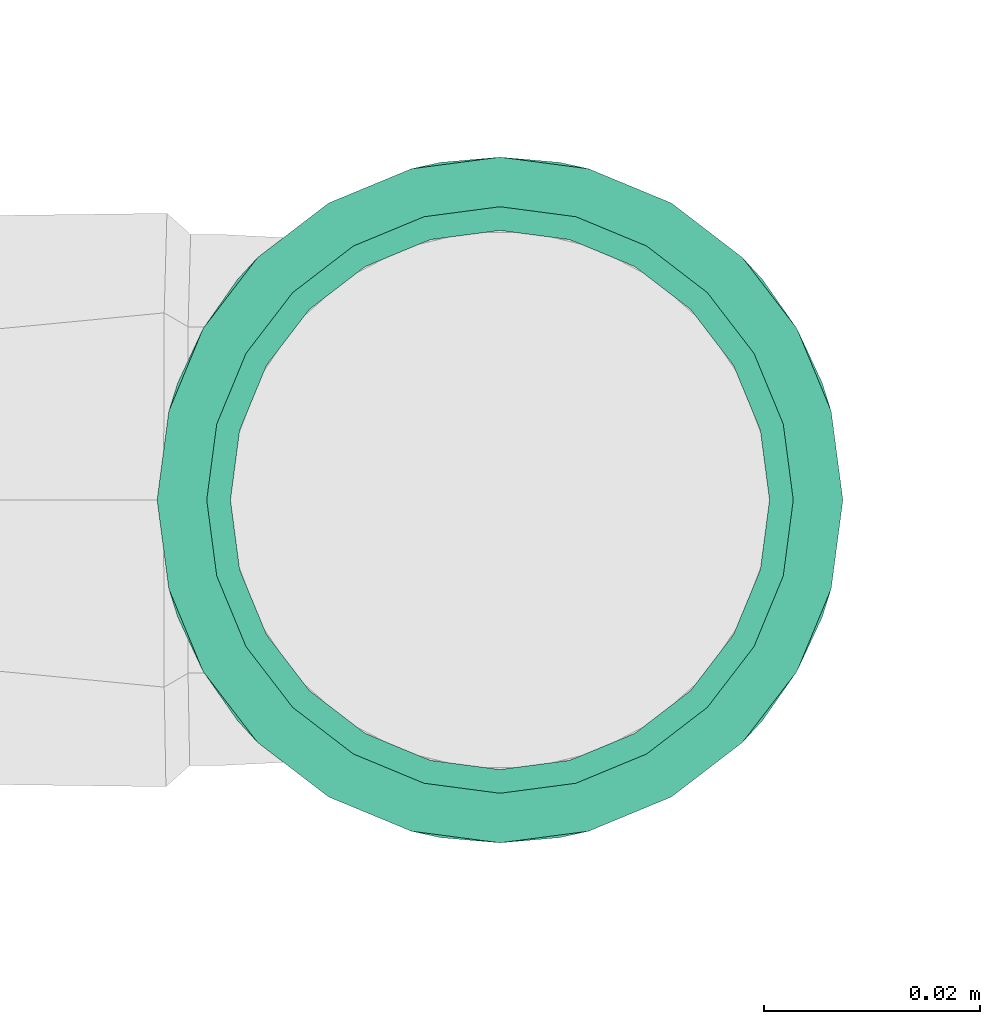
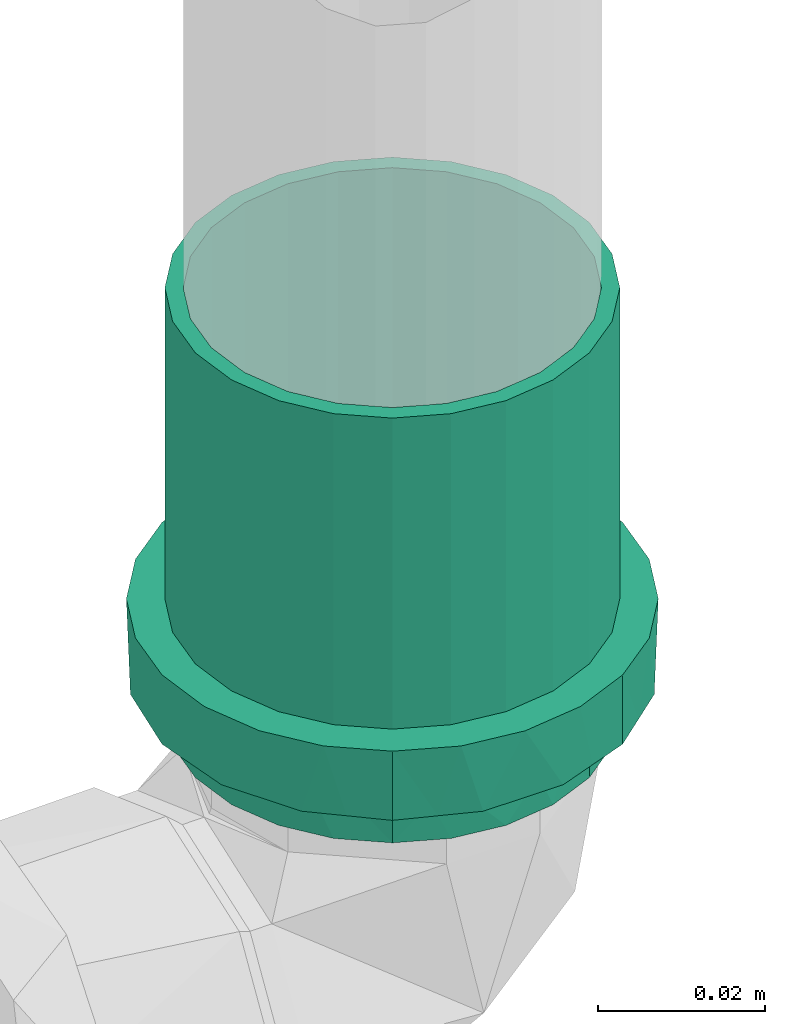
# One storey, part 161 of 589: 1 flow fitting.
"""IFC2X3 building model written with IfcOpenShell, lengths in millimetres."""

from ifc_helpers import new_model, entity, si_unit, converted_unit, derived_unit, direction, frame, origin, place, context, subcontext, project, spatial, faceted_brep, source, transform, mapped, material, type_object, type_shapes, element, save


model = new_model("IFC2X3")

# Units and contexts
model_context = context("Model", 3, precision=0.01, world=origin(), true_north=direction((6.123031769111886e-17, 1.0)))
body_context = subcontext(model_context, "Body", "Model", "MODEL_VIEW")
ifc_project = project(units=[si_unit("LENGTHUNIT", "METRE", prefix="MILLI"), si_unit("AREAUNIT", "SQUARE_METRE"), si_unit("VOLUMEUNIT", "CUBIC_METRE"), converted_unit("PLANEANGLEUNIT", "DEGREE", entity("IfcRatioMeasure", 0.017453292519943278), si_unit("PLANEANGLEUNIT", "RADIAN"), dimensions=[0, 0, 0, 0, 0, 0, 0]), si_unit("MASSUNIT", "GRAM", prefix="KILO"), derived_unit("MASSDENSITYUNIT", [(si_unit("MASSUNIT", "GRAM", prefix="KILO"), 1), (si_unit("LENGTHUNIT", "METRE"), -3)]), derived_unit("IONCONCENTRATIONUNIT", [(si_unit("MASSUNIT", "GRAM", prefix="KILO"), 1), (si_unit("LENGTHUNIT", "METRE"), -3)]), derived_unit("MOMENTOFINERTIAUNIT", [(si_unit("LENGTHUNIT", "METRE"), 4)]), si_unit("TIMEUNIT", "SECOND"), si_unit("FREQUENCYUNIT", "HERTZ"), si_unit("THERMODYNAMICTEMPERATUREUNIT", "DEGREE_CELSIUS"), derived_unit("THERMALTRANSMITTANCEUNIT", [(si_unit("MASSUNIT", "GRAM", prefix="KILO"), 1), (si_unit("THERMODYNAMICTEMPERATUREUNIT", "KELVIN"), -1), (si_unit("TIMEUNIT", "SECOND"), -3)]), derived_unit("THERMALCONDUCTANCEUNIT", [(si_unit("MASSUNIT", "GRAM", prefix="KILO"), 1), (si_unit("THERMODYNAMICTEMPERATUREUNIT", "KELVIN"), -1), (si_unit("TIMEUNIT", "SECOND"), -3), (si_unit("LENGTHUNIT", "METRE"), 1)]), derived_unit("VOLUMETRICFLOWRATEUNIT", [(si_unit("LENGTHUNIT", "METRE"), 3), (si_unit("TIMEUNIT", "SECOND"), -1)]), derived_unit("MASSFLOWRATEUNIT", [(si_unit("MASSUNIT", "GRAM", prefix="KILO"), 1), (si_unit("TIMEUNIT", "SECOND"), -1)]), derived_unit("ROTATIONALFREQUENCYUNIT", [(si_unit("TIMEUNIT", "SECOND"), -1)]), si_unit("ELECTRICCURRENTUNIT", "AMPERE"), si_unit("ELECTRICVOLTAGEUNIT", "VOLT"), si_unit("POWERUNIT", "WATT"), si_unit("FORCEUNIT", "NEWTON", prefix="KILO"), si_unit("ILLUMINANCEUNIT", "LUX"), si_unit("LUMINOUSFLUXUNIT", "LUMEN"), si_unit("LUMINOUSINTENSITYUNIT", "CANDELA"), derived_unit("USERDEFINED", [(si_unit("MASSUNIT", "GRAM", prefix="KILO"), -1), (si_unit("LENGTHUNIT", "METRE"), -2), (si_unit("TIMEUNIT", "SECOND"), 3), (si_unit("LUMINOUSFLUXUNIT", "LUMEN"), 1)]), derived_unit("USERDEFINED", [(si_unit("MASSUNIT", "GRAM", prefix="KILO"), 1), (si_unit("TIMEUNIT", "SECOND"), -3), (si_unit("LENGTHUNIT", "METRE"), 3), (si_unit("ELECTRICCURRENTUNIT", "AMPERE"), -2)]), derived_unit("SOUNDPOWERUNIT", [(si_unit("MASSUNIT", "GRAM", prefix="KILO"), 1), (si_unit("TIMEUNIT", "SECOND"), -3), (si_unit("LENGTHUNIT", "METRE"), 2)]), derived_unit("SOUNDPRESSUREUNIT", [(si_unit("MASSUNIT", "GRAM", prefix="KILO"), 1), (si_unit("LENGTHUNIT", "METRE"), -1), (si_unit("TIMEUNIT", "SECOND"), -2)]), derived_unit("LINEARVELOCITYUNIT", [(si_unit("LENGTHUNIT", "METRE"), 1), (si_unit("TIMEUNIT", "SECOND"), -1)]), si_unit("PRESSUREUNIT", "PASCAL"), derived_unit("USERDEFINED", [(si_unit("MASSUNIT", "GRAM", prefix="KILO"), 1), (si_unit("LENGTHUNIT", "METRE"), -2), (si_unit("TIMEUNIT", "SECOND"), -2)]), derived_unit("LINEARFORCEUNIT", [(si_unit("MASSUNIT", "GRAM", prefix="KILO"), 1), (si_unit("TIMEUNIT", "SECOND"), -2)]), derived_unit("PLANARFORCEUNIT", [(si_unit("MASSUNIT", "GRAM", prefix="KILO"), 1), (si_unit("LENGTHUNIT", "METRE"), -1), (si_unit("TIMEUNIT", "SECOND"), -2)]), derived_unit("SPECIFICHEATCAPACITYUNIT", [(si_unit("THERMODYNAMICTEMPERATUREUNIT", "KELVIN"), -1), (si_unit("LENGTHUNIT", "METRE"), 2), (si_unit("TIMEUNIT", "SECOND"), -2)]), derived_unit("HEATINGVALUEUNIT", [(si_unit("LENGTHUNIT", "METRE"), 2), (si_unit("TIMEUNIT", "SECOND"), -2)]), derived_unit("VAPORPERMEABILITYUNIT", [(si_unit("LENGTHUNIT", "METRE"), -1), (si_unit("TIMEUNIT", "SECOND"), 1)]), derived_unit("DYNAMICVISCOSITYUNIT", [(si_unit("MASSUNIT", "GRAM", prefix="KILO"), 1), (si_unit("TIMEUNIT", "SECOND"), -1), (si_unit("LENGTHUNIT", "METRE"), -1)]), derived_unit("THERMALEXPANSIONCOEFFICIENTUNIT", [(si_unit("THERMODYNAMICTEMPERATUREUNIT", "KELVIN"), -1)]), derived_unit("MODULUSOFELASTICITYUNIT", [(si_unit("MASSUNIT", "GRAM", prefix="KILO"), 1), (si_unit("LENGTHUNIT", "METRE"), -1), (si_unit("TIMEUNIT", "SECOND"), -2)]), derived_unit("ISOTHERMALMOISTURECAPACITYUNIT", [(si_unit("LENGTHUNIT", "METRE"), 3), (si_unit("MASSUNIT", "GRAM", prefix="KILO"), -1)]), derived_unit("MOISTUREDIFFUSIVITYUNIT", [(si_unit("TIMEUNIT", "SECOND"), -1), (si_unit("LENGTHUNIT", "METRE"), 2)])], contexts=[model_context])

# Site, building, storey
site_placement = place(None, origin())
site = spatial("IfcSite", under=ifc_project, at=site_placement, Name="Default", CompositionType="ELEMENT")
building_placement = place(site_placement, origin())
building = spatial("IfcBuilding", under=site, at=building_placement, CompositionType="ELEMENT")
storey_placement = place(building_placement, frame((0.0, 0.0, 100.0)))
storey = spatial("IfcBuildingStorey", under=building, at=storey_placement, Name="TÉRREO", CompositionType="ELEMENT", Elevation=100.0)

# Flow fitting
ifc_material = material(Name="PVC Série Normal")
pipe_fitting_type = type_object("IfcPipeFittingType", Name="PVC Esgoto_Luva Simples para Conexão_Rodrigo MEP:Standard", PredefinedType="NOTDEFINED", material=ifc_material)
shared_shape = source(origin(), body_context, "Body", "Brep", [
    faceted_brep([(16.599999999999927, 15.900000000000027, -27.53960784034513), (16.599999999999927, 22.485995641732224, -22.485995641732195), (16.599999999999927, 13.599999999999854, -23.555890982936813), (16.599999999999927, 7.039878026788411, -26.273182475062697), (16.599999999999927, 8.2304456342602, -30.71644127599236), (16.599999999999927, 19.233304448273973, -19.233304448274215), (16.599999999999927, 27.539607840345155, -15.899999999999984), (16.599999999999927, 23.55589098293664, -13.600000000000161), (16.599999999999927, 26.273182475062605, -7.03987802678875), (16.599999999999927, 30.716441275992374, -8.230445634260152), (16.599999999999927, 27.2, 0.0), (16.599999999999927, 31.8, 0.0), (16.599999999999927, 26.273182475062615, 7.0398780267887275), (16.599999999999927, 30.71644127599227, 8.23044563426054), (16.599999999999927, 23.555890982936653, 13.60000000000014), (16.599999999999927, 27.539607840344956, 15.900000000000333), (16.599999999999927, 19.233304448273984, 19.2333044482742), (16.599999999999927, 22.485995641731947, 22.48599564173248), (16.599999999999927, 13.599999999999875, 23.555890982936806), (16.599999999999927, 15.899999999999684, 27.53960784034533), (16.599999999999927, 7.039878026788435, 26.27318247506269), (16.599999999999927, 8.230445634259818, 30.716441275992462), (16.599999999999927, 0.0, 27.2), (16.599999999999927, 0.0, 31.8), (16.599999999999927, -7.039878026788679, 26.273182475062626), (16.599999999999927, -8.230445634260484, 30.716441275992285), (16.599999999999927, -13.600000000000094, 23.555890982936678), (16.599999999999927, -15.900000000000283, 27.53960784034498), (16.599999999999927, -19.23330444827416, 19.233304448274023), (16.599999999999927, -22.485995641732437, 22.48599564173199), (16.599999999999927, -23.55589098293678, 13.59999999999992), (16.599999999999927, -27.539607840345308, 15.899999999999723), (16.599999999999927, -30.71644127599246, 8.230445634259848), (16.599999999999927, -26.273182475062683, 7.039878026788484), (16.599999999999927, -31.8, 0.0), (16.599999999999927, -27.2, 0.0), (16.599999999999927, -30.71644127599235, -8.23044563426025), (16.599999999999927, -26.273182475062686, -7.03987802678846), (16.599999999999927, -27.53960784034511, -15.90000000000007), (16.599999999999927, -23.55589098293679, -13.599999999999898), (16.599999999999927, -22.485995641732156, -22.485995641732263), (16.599999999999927, -19.233304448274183, -19.233304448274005), (16.599999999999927, -15.899999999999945, -27.53960784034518), (16.599999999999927, -13.600000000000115, -23.555890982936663), (16.599999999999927, -8.230445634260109, -30.716441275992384), (16.599999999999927, -7.039878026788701, -26.273182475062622), (16.599999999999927, 0.0, -31.8), (16.599999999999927, 0.0, -27.2), (6.500000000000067, -10.708108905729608, 29.429219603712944), (6.500000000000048, -24.359073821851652, 20.44200387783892), (6.500000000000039, -27.120498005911, 15.6595386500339), (6.50000000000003, -29.881922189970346, 10.877073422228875), (6.500000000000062, -15.89769721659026, 27.540937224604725), (6.500000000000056, -20.128385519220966, 23.991470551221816), (6.50000000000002, -30.840961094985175, 5.438536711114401), (6.5000000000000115, -31.8, 0.0), (6.50000000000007, -5.518520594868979, 31.317501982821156), (6.500000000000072, 5.526376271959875, 31.316116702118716), (6.50000000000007, 0.00392783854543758, 31.316809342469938), (6.500000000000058, 20.134403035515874, 23.986420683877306), (6.500000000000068, 10.715490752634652, 29.42653259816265), (6.500000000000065, 15.904605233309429, 27.536948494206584), (6.500000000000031, 29.8846497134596, 10.869577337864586), (6.500000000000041, 27.12442527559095, 15.652735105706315), (6.5000000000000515, 24.364200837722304, 20.435892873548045), (6.5000000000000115, 31.8, 0.0), (6.499999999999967, 24.364200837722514, -20.435892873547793), (6.499999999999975, 27.12442527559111, -15.652735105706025), (6.499999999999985, 29.884649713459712, -10.869577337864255), (6.4999999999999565, 15.904605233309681, -27.53694849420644), (6.499999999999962, 20.134403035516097, -23.986420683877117), (6.499999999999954, 10.715490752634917, -29.42653259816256), (6.499999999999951, 5.526376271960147, -31.31611670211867), (6.499999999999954, -5.518520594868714, -31.317501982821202), (6.499999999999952, 0.003927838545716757, -31.316809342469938), (6.499999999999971, -20.128385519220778, -23.99147055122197), (6.499999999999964, -15.897697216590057, -27.54093722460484), (6.499999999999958, -10.70810890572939, -29.42921960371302), (6.499999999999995, -29.881922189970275, -10.877073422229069), (6.499999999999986, -27.12049800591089, -15.659538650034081), (6.499999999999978, -24.359073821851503, -20.442003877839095), (6.500000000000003, -30.840961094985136, -5.438536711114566), (6.499999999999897, -30.696173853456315, -6.259599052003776), (62.0, 13.600000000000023, -23.55589098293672), (62.0, 19.233304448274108, -19.23330444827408), (62.0, 12.499999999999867, -21.650635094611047), (62.0, 6.470476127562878, -24.14814565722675), (62.0, 7.039878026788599, -26.273182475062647), (62.0, 17.677669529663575, -17.677669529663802), (62.0, 23.55589098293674, -13.599999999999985), (62.0, 21.65063509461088, -12.50000000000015), (62.0, 24.148145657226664, -6.470476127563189), (62.0, 26.27318247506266, -7.039878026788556), (62.0, 25.0, 0.0), (62.0, 27.2, 0.0), (62.0, 24.148145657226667, 6.4704761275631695), (62.0, 26.273182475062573, 7.03987802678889), (62.0, 21.650635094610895, 12.500000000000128), (62.0, 23.555890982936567, 13.600000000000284), (62.0, 17.67766952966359, 17.67766952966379), (62.0, 19.233304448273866, 19.233304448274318), (62.0, 12.499999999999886, 21.650635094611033), (62.0, 13.59999999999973, 23.55589098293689), (62.0, 6.4704761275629, 24.14814565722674), (62.0, 7.039878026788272, 26.273182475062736), (62.0, 0.0, 25.0), (62.0, 0.0, 27.2), (62.0, -6.470476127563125, 24.148145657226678), (62.0, -7.039878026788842, 26.273182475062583), (62.0, -12.500000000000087, 21.650635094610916), (62.0, -13.600000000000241, 23.555890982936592), (62.0, -17.677669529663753, 17.677669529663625), (62.0, -19.233304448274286, 19.2333044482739), (62.0, -21.65063509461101, 12.499999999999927), (62.0, -23.555890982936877, 13.599999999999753), (62.0, -26.27318247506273, 7.039878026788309), (62.0, -24.14814565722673, 6.470476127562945), (62.0, -27.2, 0.0), (62.0, -25.0, 0.0), (62.0, -26.27318247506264, -7.0398780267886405), (62.0, -24.148145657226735, -6.470476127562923), (62.0, -23.5558909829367, -13.600000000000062), (62.0, -21.650635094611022, -12.499999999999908), (62.0, -19.233304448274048, -19.233304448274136), (62.0, -17.67766952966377, -17.677669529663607), (62.0, -13.599999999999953, -23.555890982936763), (62.0, -12.500000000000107, -21.650635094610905), (62.0, -7.039878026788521, -26.27318247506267), (62.0, -6.470476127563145, -24.148145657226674), (62.0, 0.0, -27.2), (62.0, 0.0, -25.0), (0.0, 12.499999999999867, -21.650635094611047), (0.0, 19.233304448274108, -19.23330444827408), (0.0, 13.600000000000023, -23.55589098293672), (0.0, 6.470476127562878, -24.14814565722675), (0.0, 17.677669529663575, -17.677669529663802), (0.0, 23.55589098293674, -13.599999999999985), (0.0, 21.65063509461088, -12.50000000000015), (0.0, 24.148145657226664, -6.470476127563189), (0.0, 26.27318247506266, -7.039878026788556), (0.0, 25.0, 0.0), (0.0, 27.2, 0.0), (0.0, 24.148145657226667, 6.4704761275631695), (0.0, 26.273182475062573, 7.03987802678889), (0.0, 21.650635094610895, 12.500000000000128), (0.0, 23.555890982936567, 13.600000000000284), (0.0, 17.67766952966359, 17.67766952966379), (0.0, 19.233304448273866, 19.233304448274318), (0.0, 12.499999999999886, 21.650635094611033), (0.0, 13.59999999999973, 23.55589098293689), (0.0, 6.4704761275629, 24.14814565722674), (0.0, 7.039878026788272, 26.273182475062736), (0.0, 0.0, 25.0), (0.0, 0.0, 27.2), (0.0, -6.470476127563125, 24.148145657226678), (0.0, -7.039878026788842, 26.273182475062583), (0.0, -12.500000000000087, 21.650635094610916), (0.0, -13.600000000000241, 23.555890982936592), (0.0, -17.677669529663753, 17.677669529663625), (0.0, -19.233304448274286, 19.2333044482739), (0.0, -21.65063509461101, 12.499999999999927), (0.0, -23.555890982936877, 13.599999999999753), (0.0, -26.27318247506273, 7.039878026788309), (0.0, -24.14814565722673, 6.470476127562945), (0.0, -27.2, 0.0), (0.0, -25.0, 0.0), (0.0, -26.27318247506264, -7.0398780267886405), (0.0, -24.148145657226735, -6.470476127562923), (0.0, -23.5558909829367, -13.600000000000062), (0.0, -21.650635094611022, -12.499999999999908), (0.0, -19.233304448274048, -19.233304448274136), (0.0, -17.67766952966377, -17.677669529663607), (0.0, -13.599999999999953, -23.555890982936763), (0.0, -12.500000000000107, -21.650635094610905), (0.0, -7.039878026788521, -26.27318247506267), (0.0, -6.470476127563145, -24.148145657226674), (0.0, 0.0, -27.2), (0.0, 0.0, -25.0), (0.0, 7.039878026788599, -26.273182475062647), (5.300000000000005, -26.37968999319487, 4.651830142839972), (5.299999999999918, -26.25584678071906, 5.354122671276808), (5.300000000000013, -25.559379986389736, 9.303660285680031), (5.300000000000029, -20.835434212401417, 17.48498444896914), (5.300000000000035, -17.216732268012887, 20.521006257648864), (5.300000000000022, -23.19740709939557, 13.394322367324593), (5.3000000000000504, -4.720244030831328, 26.787297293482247), (5.300000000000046, -9.15913717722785, 25.172162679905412), (5.299999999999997, -27.2, 0.0), (5.300000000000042, -13.598030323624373, 23.557028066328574), (5.300000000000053, 9.165451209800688, 25.169864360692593), (5.300000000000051, 13.603939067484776, 23.55361632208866), (5.300000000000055, 4.7269633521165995, 26.786112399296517), (5.300000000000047, 17.221879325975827, 20.516686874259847), (5.300000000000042, 20.839819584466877, 17.479757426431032), (5.3000000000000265, 25.56171296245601, 9.297248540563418), (5.299999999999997, 27.2, 0.0), (5.3000000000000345, 23.20076627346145, 13.388502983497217), (5.300000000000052, 0.003359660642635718, 26.786704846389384), (5.299999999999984, 25.56171296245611, -9.29724854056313), (5.299999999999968, 20.839819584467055, -17.47975742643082), (5.2999999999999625, 17.22187932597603, -20.516686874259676), (5.299999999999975, 23.200766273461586, -13.388502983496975), (5.299999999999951, 4.726963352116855, -26.78611239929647), (5.2999999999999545, 9.165451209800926, -25.169864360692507), (5.299999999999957, 13.603939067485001, -23.553616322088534), (5.29999999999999, -26.379689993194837, -4.651830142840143), (5.299999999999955, -9.159137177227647, -25.17216267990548), (5.299999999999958, -13.5980303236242, -23.55702806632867), (5.299999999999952, -4.720244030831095, -26.787297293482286), (5.299999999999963, -17.216732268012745, -20.52100625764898), (5.299999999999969, -20.83543421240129, -17.484984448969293), (5.299999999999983, -25.559379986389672, -9.303660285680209), (5.299999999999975, -23.197407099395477, -13.394322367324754), (5.299999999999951, 0.003359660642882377, -26.78670484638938), (39.0, -25.0, 0.0), (39.0, 25.0, 0.0)], [[[0, 1, 2]], [[0, 2, 3]], [[3, 4, 0]], [[2, 1, 5]], [[6, 5, 1]], [[7, 5, 6]], [[8, 7, 6]], [[8, 6, 9]], [[8, 9, 10]], [[10, 9, 11]], [[12, 10, 11]], [[12, 11, 13]], [[14, 12, 13]], [[14, 13, 15]], [[16, 14, 15]], [[15, 17, 16]], [[17, 18, 16]], [[17, 19, 18]], [[18, 19, 20]], [[21, 20, 19]], [[20, 21, 22]], [[22, 21, 23]], [[22, 23, 24]], [[24, 23, 25]], [[24, 25, 26]], [[27, 26, 25]], [[27, 28, 26]], [[28, 27, 29]], [[30, 28, 29]], [[31, 30, 29]], [[32, 30, 31]], [[33, 30, 32]], [[33, 32, 34]], [[35, 33, 34]], [[36, 35, 34]], [[36, 37, 35]], [[37, 36, 38]], [[39, 37, 38]], [[39, 38, 40]], [[39, 40, 41]], [[40, 42, 41]], [[41, 42, 43]], [[43, 42, 44]], [[44, 45, 43]], [[46, 45, 44]], [[4, 47, 46]], [[46, 47, 45]], [[4, 3, 47]], [[48, 27, 25]], [[31, 29, 49]], [[31, 49, 50, 51]], [[52, 53, 27]], [[32, 51, 54]], [[54, 55, 34]], [[54, 34, 32]], [[25, 56, 48]], [[49, 29, 53]], [[23, 57, 58, 56]], [[59, 19, 17]], [[27, 53, 29]], [[48, 52, 27]], [[31, 51, 32]], [[57, 23, 21]], [[60, 19, 61]], [[15, 62, 63, 64]], [[19, 60, 21]], [[15, 13, 62]], [[17, 64, 59]], [[57, 21, 60]], [[23, 56, 25]], [[15, 64, 17]], [[13, 65, 62]], [[13, 11, 65]], [[59, 61, 19]], [[65, 11, 9]], [[6, 1, 66]], [[6, 66, 67, 68]], [[69, 70, 0]], [[68, 65, 9]], [[71, 69, 0]], [[71, 0, 4]], [[4, 72, 71]], [[66, 1, 70]], [[46, 73, 74, 72]], [[75, 76, 42]], [[0, 70, 1]], [[75, 42, 40]], [[6, 68, 9]], [[73, 46, 44]], [[77, 42, 76]], [[38, 78, 79, 80]], [[42, 77, 44]], [[38, 36, 78]], [[40, 80, 75]], [[73, 44, 77]], [[46, 72, 4]], [[38, 80, 40]], [[36, 81, 82, 78]], [[55, 81, 34]], [[34, 81, 36]], [[83, 84, 85]], [[83, 85, 86]], [[86, 87, 83]], [[85, 84, 88]], [[89, 88, 84]], [[88, 89, 90]], [[90, 89, 91]], [[92, 91, 89]], [[92, 93, 91]], [[93, 92, 94]], [[95, 93, 94]], [[94, 96, 95]], [[95, 96, 97]], [[98, 97, 96]], [[97, 98, 99]], [[99, 98, 100]], [[101, 99, 100]], [[100, 102, 101]], [[101, 102, 103]], [[104, 103, 102]], [[103, 104, 105]], [[105, 104, 106]], [[105, 106, 107]], [[107, 106, 108]], [[107, 108, 109]], [[110, 109, 108]], [[110, 111, 109]], [[111, 110, 112]], [[112, 113, 111]], [[114, 113, 112]], [[113, 114, 115]], [[115, 116, 113]], [[117, 116, 115]], [[117, 118, 116]], [[119, 118, 117]], [[119, 120, 118]], [[120, 119, 121]], [[121, 122, 120]], [[122, 121, 123]], [[122, 123, 124]], [[123, 125, 124]], [[124, 125, 126]], [[126, 125, 127]], [[127, 128, 126]], [[129, 128, 127]], [[87, 130, 129]], [[129, 130, 128]], [[87, 86, 130]], [[131, 132, 133]], [[134, 131, 133]], [[135, 132, 131]], [[132, 135, 136]], [[137, 136, 135]], [[138, 136, 137]], [[136, 138, 139]], [[138, 140, 139]], [[141, 139, 140]], [[141, 140, 142]], [[142, 143, 141]], [[144, 143, 142]], [[143, 144, 145]], [[146, 145, 144]], [[147, 145, 146]], [[147, 146, 148]], [[148, 149, 147]], [[150, 149, 148]], [[149, 150, 151]], [[152, 151, 150]], [[153, 151, 152]], [[154, 153, 152]], [[155, 153, 154]], [[156, 155, 154]], [[155, 156, 157]], [[156, 158, 157]], [[159, 157, 158]], [[158, 160, 159]], [[159, 160, 161]], [[162, 161, 160]], [[160, 163, 162]], [[162, 163, 164]], [[163, 165, 164]], [[164, 165, 166]], [[165, 167, 166]], [[168, 166, 167]], [[167, 169, 168]], [[170, 168, 169]], [[171, 170, 169]], [[171, 172, 170]], [[173, 172, 171]], [[174, 172, 173]], [[173, 175, 174]], [[174, 175, 176]], [[175, 177, 176]], [[177, 134, 178]], [[176, 177, 178]], [[133, 178, 134]], [[162, 179, 180, 181]], [[159, 182, 183]], [[182, 161, 181, 184]], [[185, 155, 186]], [[161, 162, 181]], [[187, 179, 164]], [[183, 188, 157]], [[183, 157, 159]], [[161, 182, 159]], [[189, 190, 149]], [[189, 149, 151]], [[157, 188, 186]], [[157, 186, 155]], [[153, 155, 185]], [[164, 179, 162]], [[151, 191, 189]], [[147, 192, 193]], [[143, 194, 195]], [[194, 145, 193, 196]], [[143, 195, 141]], [[10, 12, 96, 94]], [[149, 192, 147]], [[153, 185, 197, 191]], [[153, 191, 151]], [[145, 147, 193]], [[190, 192, 149]], [[145, 194, 143]], [[139, 195, 198]], [[132, 199, 200]], [[199, 136, 198, 201]], [[202, 178, 203]], [[136, 139, 198]], [[139, 141, 195]], [[92, 8, 10, 94]], [[133, 203, 178]], [[200, 204, 133]], [[136, 199, 132]], [[205, 164, 166]], [[206, 207, 172]], [[133, 204, 203]], [[206, 172, 174]], [[176, 178, 202]], [[200, 133, 132]], [[174, 208, 206]], [[170, 209, 210]], [[166, 211, 205]], [[211, 168, 210, 212]], [[168, 211, 166]], [[172, 209, 170]], [[176, 202, 213, 208]], [[176, 208, 174]], [[168, 170, 210]], [[207, 209, 172]], [[205, 187, 164]], [[116, 118, 214, 165, 163]], [[156, 109, 111, 158]], [[111, 113, 160, 158]], [[113, 116, 163, 160]], [[107, 109, 156, 154]], [[154, 152, 105, 107]], [[103, 105, 152, 150]], [[103, 150, 148, 101]], [[142, 95, 97, 144]], [[97, 99, 146, 144]], [[99, 101, 148, 146]], [[93, 95, 142, 140, 215]], [[215, 140, 138, 91, 93]], [[135, 131, 85, 88]], [[90, 91, 138, 137]], [[90, 137, 135, 88]], [[86, 85, 131, 134]], [[134, 177, 130, 86]], [[128, 130, 177, 175]], [[128, 175, 173, 126]], [[167, 120, 122, 169]], [[122, 124, 171, 169]], [[124, 126, 173, 171]], [[118, 120, 167, 165, 214]], [[211, 78, 82, 81, 55, 187, 205]], [[79, 78, 211, 212, 210, 80]], [[75, 80, 210, 209, 207, 76]], [[207, 206, 208, 73, 77, 76]], [[213, 202, 72, 74, 73, 208]], [[203, 204, 69, 71, 72, 202]], [[198, 195, 65, 68]], [[199, 201, 198, 68, 67, 66]], [[204, 200, 199, 66, 70, 69]], [[195, 194, 62, 65]], [[197, 185, 56, 58, 57, 191]], [[63, 62, 194, 196, 193, 64]], [[57, 60, 61, 190, 189, 191]], [[193, 192, 190, 61, 59, 64]], [[48, 56, 185, 186, 188, 52]], [[187, 55, 54, 51, 181, 180, 179]], [[182, 184, 181, 51, 50, 49]], [[188, 183, 182, 49, 53, 52]], [[30, 33, 115, 114]], [[117, 115, 33, 35]], [[26, 28, 112, 110]], [[114, 112, 28, 30]], [[24, 26, 110, 108]], [[108, 106, 22, 24]], [[18, 20, 104, 102]], [[100, 16, 18, 102]], [[12, 14, 98, 96]], [[100, 98, 14, 16]], [[104, 20, 22, 106]], [[89, 7, 8, 92]], [[83, 87, 3, 2]], [[7, 89, 84, 5]], [[83, 2, 5, 84]], [[87, 129, 47, 3]], [[43, 45, 127, 125]], [[123, 41, 43, 125]], [[37, 39, 121, 119]], [[123, 121, 39, 41]], [[35, 37, 119, 117]], [[127, 45, 47, 129]]]),
])
type_shapes(pipe_fitting_type, [shared_shape])
flow_fitting_placement = place(storey_placement, frame((8349.442851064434, -8422.906307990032, 3099.9412999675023), z_axis=(0.0, -1.0, 0.0), x_axis=(0.0, 0.0, 1.0)))
element("IfcFlowFitting", 1, at=flow_fitting_placement, inside=storey, type_object=pipe_fitting_type, material=ifc_material, Name="PVC Esgoto_Luva Simples para Conexão_Rodrigo MEP:Standard", ObjectType="PVC Esgoto_Luva Simples para Conexão_Rodrigo MEP:Standard", context=body_context, shape_type="MappedRepresentation", body=[
    mapped(shared_shape, transform((0.0, 0.0, 0.0), scale=1.0)),
])

save(model, "model.ifc")
